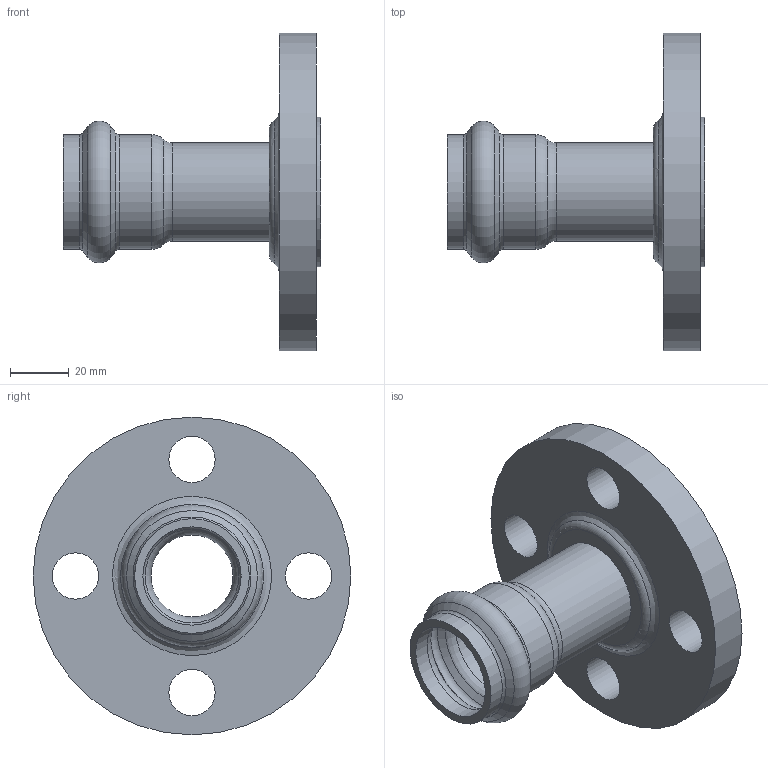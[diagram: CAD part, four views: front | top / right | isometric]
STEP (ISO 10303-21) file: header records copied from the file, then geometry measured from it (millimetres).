
FILE_DESCRIPTION(/* description */ ('VIC VAN STONE FLANGE ADAPTER STYLE P565','CAx-IF Rec.Pracs.---Representation and Presentation of Product Manufacturing Information (PMI)---4.0---2014-10-13'),/* implementation_level */ '2;1');
FILE_NAME(/* name */ 'C:\Users\Vjadhav\AppData\Roaming\Autodesk\ApplicationPlugins\Back Up\Victaulic_SS-Vic-Press-TP 304_Flange Adapter Van Stone_CL 150 RF_Style P565 (VPxFLG)\Victaulic_SS-Vic-Press-TP 304_Flange Adapter Van Stone_CL 150 RF_Style P565 (VPxFLG)_1 (25).stp',/* time_stamp */ '2020-08-12T17:23:09+06:00',/* author */ ('cgray'),/* organization */ ('Victaulic'),/* preprocessor_version */ 'ST-DEVELOPER v17.2',/* originating_system */ 'Autodesk Inventor 2019',/* authorisation */ '');
FILE_SCHEMA (('AP242_MANAGED_MODEL_BASED_3D_ENGINEERING_MIM_LF { 1 0 10303 442 1 1 4 }'));
Length unit declared in the file: inch
Products named in the file (1): P565-01.0
Bounding box: 87.63 x 107.95 x 107.95 mm (x, y, z)
Volume: 127206.8 mm3; surface area: 40494.9 mm2
Topology: 1 solids, 1 shells, 33 faces, 113 edges, 85 vertices
Faces by surface type: cylinder 12, torus 11, plane 5, cone 4, bspline 1
Full cylindrical faces by diameter (mm): 15.748 x4, 27.864 x1, 33.401 x3, 38.938 x2, 50.8 x1, 107.95 x1
Entity records: 1677 total; most frequent: CARTESIAN_POINT 417, DIRECTION 296, ORIENTED_EDGE 226, AXIS2_PLACEMENT_3D 140, EDGE_CURVE 113, CIRCLE 94, VERTEX_POINT 85, EDGE_LOOP 46
